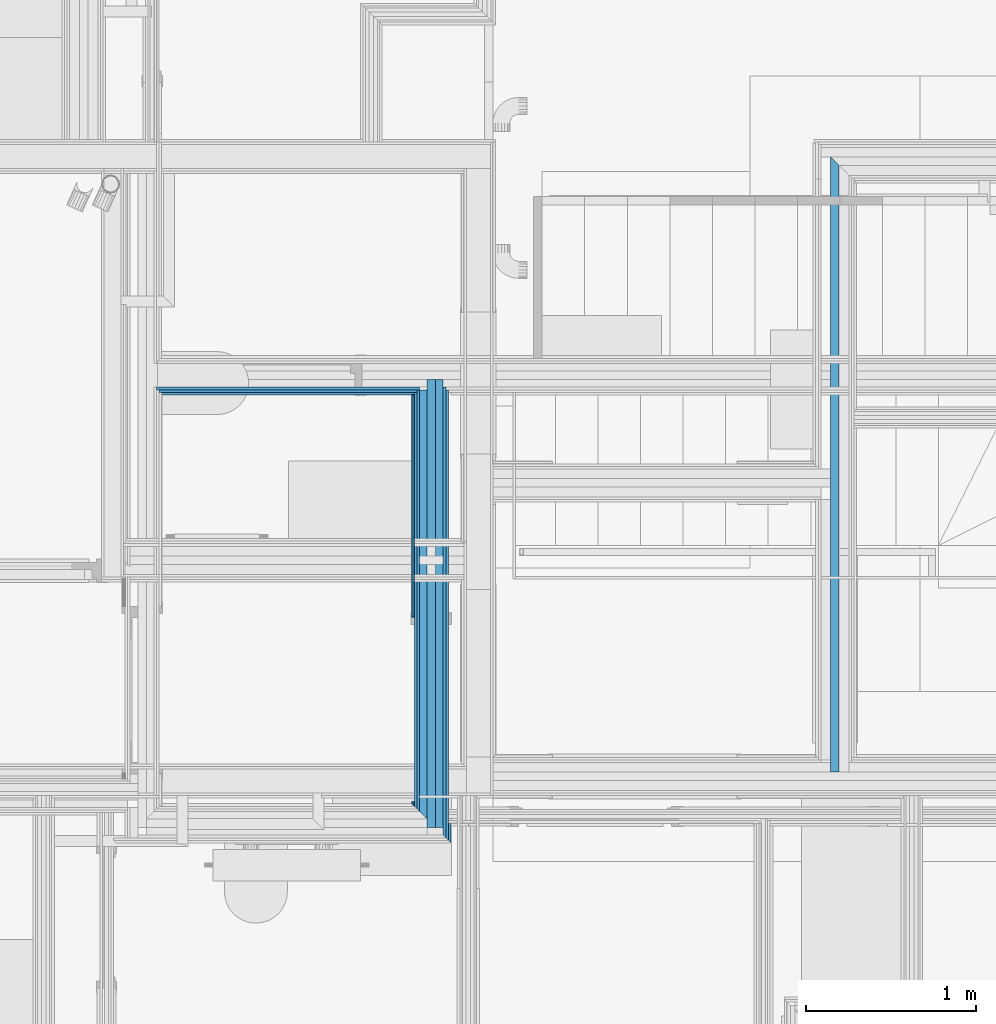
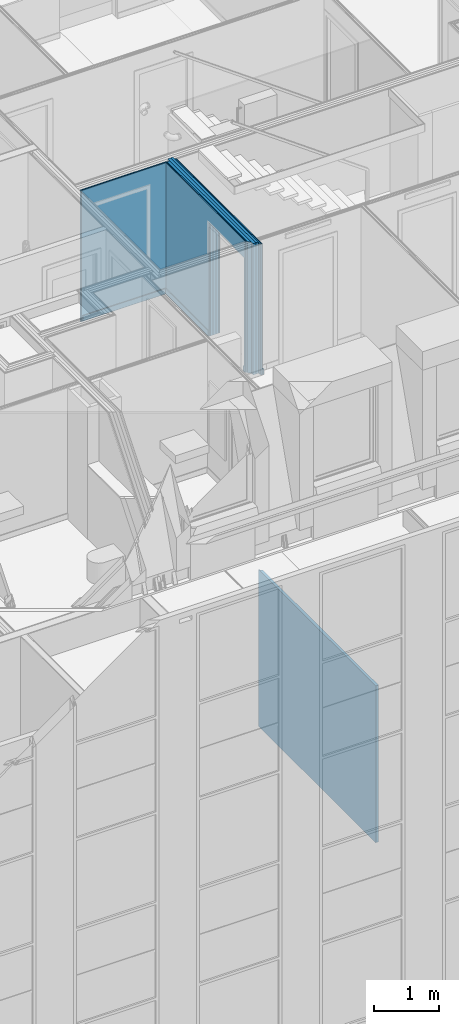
# One storey, part 38 of 169: 13 building element parts, 1 opening, 3 elements without a shape of their own.
"""IFC2X3 building model written with IfcOpenShell, lengths in metres."""

from ifc_helpers import new_model, entity, si_unit, converted_unit, derived_unit, money_unit, direction, frame, frame_2d, origin_with_axes, place, context, subcontext, project, spatial, polyline, rectangle, outline, extrude, material, type_object, element, aggregate, save


model = new_model("IFC2X3")

# Units and contexts
model_context = context("Model", 3, precision=1e-05, world=origin_with_axes(), true_north=direction((0.0, 1.0)))
body_context = subcontext(model_context, "Body", "Model", "MODEL_VIEW", scale=1.0)
ifc_project = project(units=[si_unit("LENGTHUNIT", "METRE"), si_unit("AREAUNIT", "SQUARE_METRE"), si_unit("VOLUMEUNIT", "CUBIC_METRE"), si_unit("ABSORBEDDOSEUNIT", "GRAY"), si_unit("AMOUNTOFSUBSTANCEUNIT", "MOLE"), si_unit("DOSEEQUIVALENTUNIT", "SIEVERT"), si_unit("ELECTRICCAPACITANCEUNIT", "FARAD"), si_unit("ELECTRICCHARGEUNIT", "COULOMB"), si_unit("ELECTRICCONDUCTANCEUNIT", "SIEMENS"), si_unit("ELECTRICCURRENTUNIT", "AMPERE"), si_unit("ELECTRICRESISTANCEUNIT", "OHM"), si_unit("ELECTRICVOLTAGEUNIT", "VOLT"), si_unit("ENERGYUNIT", "JOULE"), si_unit("FORCEUNIT", "NEWTON"), si_unit("FREQUENCYUNIT", "HERTZ"), si_unit("ILLUMINANCEUNIT", "LUX"), si_unit("INDUCTANCEUNIT", "HENRY"), si_unit("LUMINOUSFLUXUNIT", "LUMEN"), si_unit("LUMINOUSINTENSITYUNIT", "CANDELA"), si_unit("MAGNETICFLUXDENSITYUNIT", "TESLA"), si_unit("MAGNETICFLUXUNIT", "WEBER"), si_unit("MASSUNIT", "GRAM"), converted_unit("PLANEANGLEUNIT", "degree", entity("IfcReal", 0.0174532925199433), si_unit("PLANEANGLEUNIT", "RADIAN"), dimensions=[0, 0, 0, 0, 0, 0, 0]), si_unit("POWERUNIT", "WATT"), si_unit("PRESSUREUNIT", "PASCAL"), si_unit("RADIOACTIVITYUNIT", "BECQUEREL"), si_unit("SOLIDANGLEUNIT", "STERADIAN"), si_unit("THERMODYNAMICTEMPERATUREUNIT", "KELVIN"), si_unit("TIMEUNIT", "SECOND"), derived_unit("ACCELERATIONUNIT", [(si_unit("LENGTHUNIT", "METRE"), 1), (si_unit("TIMEUNIT", "SECOND"), -2)]), derived_unit("ANGULARVELOCITYUNIT", [(converted_unit("PLANEANGLEUNIT", "degree", entity("IfcReal", 0.0174532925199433), si_unit("PLANEANGLEUNIT", "RADIAN"), dimensions=[0, 0, 0, 0, 0, 0, 0]), 1), (si_unit("TIMEUNIT", "SECOND"), -1)]), derived_unit("CURVATUREUNIT", [(converted_unit("PLANEANGLEUNIT", "degree", entity("IfcReal", 0.0174532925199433), si_unit("PLANEANGLEUNIT", "RADIAN"), dimensions=[0, 0, 0, 0, 0, 0, 0]), 1), (si_unit("LENGTHUNIT", "METRE"), -1)]), derived_unit("DYNAMICVISCOSITYUNIT", [(si_unit("PRESSUREUNIT", "PASCAL"), 1), (si_unit("TIMEUNIT", "SECOND"), 1)]), derived_unit("HEATFLUXDENSITYUNIT", [(si_unit("POWERUNIT", "WATT"), 1), (si_unit("LENGTHUNIT", "METRE"), -2)]), derived_unit("HEATINGVALUEUNIT", [(si_unit("ENERGYUNIT", "JOULE"), 1), (si_unit("MASSUNIT", "GRAM"), -1)]), derived_unit("INTEGERCOUNTRATEUNIT", [(si_unit("TIMEUNIT", "SECOND"), -1)]), derived_unit("IONCONCENTRATIONUNIT", [(si_unit("MASSUNIT", "GRAM"), 1), (si_unit("VOLUMEUNIT", "CUBIC_METRE"), -1)]), derived_unit("ISOTHERMALMOISTURECAPACITYUNIT", [(si_unit("VOLUMEUNIT", "CUBIC_METRE"), 1), (si_unit("MASSUNIT", "GRAM"), -1)]), derived_unit("KINEMATICVISCOSITYUNIT", [(si_unit("AREAUNIT", "SQUARE_METRE"), 1), (si_unit("TIMEUNIT", "SECOND"), -1)]), derived_unit("LINEARFORCEUNIT", [(si_unit("FORCEUNIT", "NEWTON"), 1), (si_unit("LENGTHUNIT", "METRE"), -1)]), derived_unit("LINEARMOMENTUNIT", [(si_unit("FORCEUNIT", "NEWTON"), 1), (si_unit("LENGTHUNIT", "METRE"), -1)]), derived_unit("LINEARSTIFFNESSUNIT", [(si_unit("FORCEUNIT", "NEWTON"), 1), (si_unit("LENGTHUNIT", "METRE"), -1)]), derived_unit("LINEARVELOCITYUNIT", [(si_unit("LENGTHUNIT", "METRE"), 1), (si_unit("TIMEUNIT", "SECOND"), -1)]), derived_unit("LUMINOUSINTENSITYDISTRIBUTIONUNIT", [(si_unit("LUMINOUSINTENSITYUNIT", "CANDELA"), 1), (si_unit("LUMINOUSFLUXUNIT", "LUMEN"), -1)]), derived_unit("MASSDENSITYUNIT", [(si_unit("MASSUNIT", "GRAM"), 1), (si_unit("VOLUMEUNIT", "CUBIC_METRE"), -1)]), derived_unit("MASSFLOWRATEUNIT", [(si_unit("MASSUNIT", "GRAM"), 1), (si_unit("TIMEUNIT", "SECOND"), -1)]), derived_unit("MASSPERLENGTHUNIT", [(si_unit("MASSUNIT", "GRAM"), 1), (si_unit("LENGTHUNIT", "METRE"), -1)]), derived_unit("MODULUSOFELASTICITYUNIT", [(si_unit("FORCEUNIT", "NEWTON"), 1), (si_unit("AREAUNIT", "SQUARE_METRE"), -1)]), derived_unit("MODULUSOFLINEARSUBGRADEREACTIONUNIT", [(si_unit("FORCEUNIT", "NEWTON"), 1), (si_unit("LENGTHUNIT", "METRE"), -2)]), derived_unit("MODULUSOFROTATIONALSUBGRADEREACTIONUNIT", [(si_unit("FORCEUNIT", "NEWTON"), 1), (si_unit("LENGTHUNIT", "METRE"), 1)]), derived_unit("MODULUSOFSUBGRADEREACTIONUNIT", [(si_unit("FORCEUNIT", "NEWTON"), 1), (si_unit("VOLUMEUNIT", "CUBIC_METRE"), -1)]), derived_unit("MOISTUREDIFFUSIVITYUNIT", [(si_unit("VOLUMEUNIT", "CUBIC_METRE"), 1), (si_unit("TIMEUNIT", "SECOND"), -1)]), derived_unit("MOLECULARWEIGHTUNIT", [(si_unit("MASSUNIT", "GRAM"), 1), (si_unit("AMOUNTOFSUBSTANCEUNIT", "MOLE"), -1)]), derived_unit("PLANARFORCEUNIT", [(si_unit("FORCEUNIT", "NEWTON"), 1), (si_unit("LENGTHUNIT", "METRE"), -2)]), derived_unit("ROTATIONALFREQUENCYUNIT", [(si_unit("TIMEUNIT", "SECOND"), -1)]), derived_unit("ROTATIONALMASSUNIT", [(si_unit("MASSUNIT", "GRAM"), 1), (si_unit("LENGTHUNIT", "METRE"), 2)]), derived_unit("ROTATIONALSTIFFNESSUNIT", [(si_unit("FORCEUNIT", "NEWTON"), 1), (si_unit("LENGTHUNIT", "METRE"), 1), (converted_unit("PLANEANGLEUNIT", "degree", entity("IfcReal", 0.0174532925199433), si_unit("PLANEANGLEUNIT", "RADIAN"), dimensions=[0, 0, 0, 0, 0, 0, 0]), -1)]), derived_unit("SECTIONAREAINTEGRALUNIT", [(si_unit("LENGTHUNIT", "METRE"), 5)]), derived_unit("SECTIONMODULUSUNIT", [(si_unit("LENGTHUNIT", "METRE"), 3)]), derived_unit("SHEARMODULUSUNIT", [(si_unit("FORCEUNIT", "NEWTON"), 1), (si_unit("AREAUNIT", "SQUARE_METRE"), -1)]), derived_unit("SOUNDPOWERUNIT", [(si_unit("ENERGYUNIT", "JOULE"), 1), (si_unit("TIMEUNIT", "SECOND"), -1)]), derived_unit("SPECIFICHEATCAPACITYUNIT", [(si_unit("FORCEUNIT", "NEWTON"), 1), (si_unit("MASSUNIT", "GRAM"), -1), (si_unit("THERMODYNAMICTEMPERATUREUNIT", "KELVIN"), -1)]), derived_unit("TEMPERATUREGRADIENTUNIT", [(si_unit("THERMODYNAMICTEMPERATUREUNIT", "KELVIN"), 1), (si_unit("LENGTHUNIT", "METRE"), -1)]), derived_unit("THERMALADMITTANCEUNIT", [(si_unit("POWERUNIT", "WATT"), 1), (si_unit("AREAUNIT", "SQUARE_METRE"), -1), (si_unit("THERMODYNAMICTEMPERATUREUNIT", "KELVIN"), -1)]), derived_unit("THERMALCONDUCTANCEUNIT", [(si_unit("POWERUNIT", "WATT"), 1), (si_unit("LENGTHUNIT", "METRE"), -1), (si_unit("THERMODYNAMICTEMPERATUREUNIT", "KELVIN"), -1)]), derived_unit("THERMALEXPANSIONCOEFFICIENTUNIT", [(si_unit("THERMODYNAMICTEMPERATUREUNIT", "KELVIN"), -1)]), derived_unit("THERMALRESISTANCEUNIT", [(si_unit("AREAUNIT", "SQUARE_METRE"), 1), (si_unit("POWERUNIT", "WATT"), -1)]), derived_unit("THERMALTRANSMITTANCEUNIT", [(si_unit("POWERUNIT", "WATT"), 1), (si_unit("AREAUNIT", "SQUARE_METRE"), -1), (si_unit("THERMODYNAMICTEMPERATUREUNIT", "KELVIN"), -1)]), derived_unit("TORQUEUNIT", [(si_unit("FORCEUNIT", "NEWTON"), 1), (si_unit("LENGTHUNIT", "METRE"), 1)]), derived_unit("VAPORPERMEABILITYUNIT", [(si_unit("MASSUNIT", "GRAM"), 1), (si_unit("TIMEUNIT", "SECOND"), -1)]), derived_unit("VOLUMETRICFLOWRATEUNIT", [(si_unit("VOLUMEUNIT", "CUBIC_METRE"), 1), (si_unit("TIMEUNIT", "SECOND"), -1)]), derived_unit("WARPINGCONSTANTUNIT", [(si_unit("LENGTHUNIT", "METRE"), 6)]), derived_unit("WARPINGMOMENTUNIT", [(si_unit("FORCEUNIT", "NEWTON"), 1), (si_unit("LENGTHUNIT", "METRE"), 2)]), money_unit("GBP")], contexts=[model_context])

# Site, building, storey
site_placement = place(None, origin_with_axes())
site = spatial("IfcSite", under=ifc_project, at=site_placement, Name="Site", CompositionType="ELEMENT")
building_placement = place(site_placement, origin_with_axes())
building = spatial("IfcBuilding", under=site, at=building_placement, Name="Building01", CompositionType="ELEMENT")
storey_placement = place(building_placement, frame((0.0, 0.0, 5.15), z_axis=(0.0, 0.0, 1.0), x_axis=(1.0, 0.0, 0.0)))
storey = spatial("IfcBuildingStorey", under=building, at=storey_placement, Name="1F", CompositionType="ELEMENT", Elevation=5.15)

# Wall, building element part
wall_type_1 = type_object("IfcWallType", Name="SHE_A-Walls_Type01c_Partywall_225mm_twin_tall", PredefinedType="NOTDEFINED")
wall_1_placement = place(storey_placement, frame((19.985661, 8.732, 0.0), z_axis=(0.0, 0.0, 1.0), x_axis=(0.0, -1.0, 0.0)))
wall_1 = element("IfcWall", 1, at=wall_1_placement, inside=storey, type_object=wall_type_1, Name="1C", ObjectType="SHE_A-Walls_Type01c_Partywall_225mm_twin_tall")
ifc_material_1 = material(Name="A_BSUK_Insulation")
building_element_part_1_placement = place(wall_1_placement, origin_with_axes())
building_element_part_1 = element("IfcBuildingElementPart", 2, at=building_element_part_1_placement, material=ifc_material_1, Name="10", context=body_context, shape_type="SweptSolid", body=[
    extrude(outline(polyline([(3.614, 0.05), (0.05, 0.05), (0.0, 0.0), (3.614, 0.0), (3.614, 0.05)])), origin_with_axes(), (0.0, 0.0, 1.0), 2.95),
])
aggregate(wall_1, [building_element_part_1])

# Wall, opening, building element parts
wall_type_2 = type_object("IfcWallType", Name="SHE_A-Walls_Type01d_Partywall_200mm_twin", PredefinedType="NOTDEFINED")
wall_2_placement = place(storey_placement, frame((17.61344, 7.424915, 9.83), z_axis=(0.0, 0.0, 1.0), x_axis=(0.0, -1.0, 0.0)))
wall_2 = element("IfcWall", 3, at=wall_2_placement, inside=storey, type_object=wall_type_2, Name="1D", ObjectType="SHE_A-Walls_Type01d_Partywall_200mm_twin")
opening_placement = place(wall_2_placement, frame((1.396915, -0.09, 0.0), z_axis=(0.0, 0.0, 1.0), x_axis=(1.0, 0.0, 0.0)))
element("IfcOpeningElement", 4, at=opening_placement, cuts=wall_2, Name="Opening", ObjectType="Recess", context=body_context, shape_type="SweptSolid", body=[
    extrude(rectangle(XDim=1.084, YDim=2.142, at=frame_2d((-0.542, 1.071), x_axis=(1.0, 0.0))), frame((0.0, 0.0, 0.0), z_axis=(0.0, 1.0, 0.0), x_axis=(-1.0, 0.0, 0.0)), (0.0, 0.0, 1.0), 0.215),
])
ifc_material_2 = material(Name="A_BSUK_Walls_Timber")
placement_1 = place(wall_2_placement, origin_with_axes())
building_element_part_2 = element("IfcBuildingElementPart", 5, at=placement_1, material=ifc_material_2, Name="1", context=body_context, shape_type="SweptSolid", body=[
    extrude(outline(polyline([(2.507915, -0.075), (0.09, -0.075), (0.09, -0.09), (2.492915, -0.09), (2.507915, -0.075)])), frame((0.0, 0.0, 0.015), z_axis=(0.0, 0.0, 1.0), x_axis=(1.0, 0.0, 0.0)), (0.0, 0.0, 1.0), 0.1),
])
ifc_material_3 = material(Name="A_BSUK_WallInternal_Finishes_Plasterboard")
building_element_part_3 = element("IfcBuildingElementPart", 6, at=placement_1, material=ifc_material_3, Name="2", context=body_context, shape_type="SweptSolid", body=[
    extrude(outline(polyline([(2.522915, -0.06), (0.075, -0.06), (0.075, -0.075), (2.507915, -0.075), (2.522915, -0.06)])), origin_with_axes(), (0.0, 0.0, 1.0), 2.468),
])
building_element_part_4 = element("IfcBuildingElementPart", 7, at=placement_1, material=ifc_material_3, Name="3", context=body_context, shape_type="SweptSolid", body=[
    extrude(outline(polyline([(2.537915, -0.045), (0.06, -0.045), (0.06, -0.06), (2.522915, -0.06), (2.537915, -0.045)])), origin_with_axes(), (0.0, 0.0, 1.0), 2.468),
])
ifc_material_4 = material(Name="Air Cavity")
building_element_part_5 = element("IfcBuildingElementPart", 8, at=placement_1, material=ifc_material_4, Name="4", context=body_context, shape_type="SweptSolid", body=[
    extrude(outline(polyline([(2.582915, 0.0), (0.06, 0.0), (0.06, -0.045), (2.537915, -0.045), (2.582915, 0.0)])), origin_with_axes(), (0.0, 0.0, 1.0), 2.468),
])
building_element_part_6 = element("IfcBuildingElementPart", 9, at=placement_1, material=ifc_material_1, Name="5", context=body_context, shape_type="SweptSolid", body=[
    extrude(rectangle(XDim=2.632915, YDim=0.05, at=frame_2d((1.316458, 0.025), x_axis=(-1.0, 0.0))), origin_with_axes(), (0.0, 0.0, 1.0), 2.468),
])
building_element_part_7 = element("IfcBuildingElementPart", 10, at=placement_1, material=ifc_material_4, Name="6", context=body_context, shape_type="SweptSolid", body=[
    extrude(rectangle(XDim=2.632915, YDim=0.045, at=frame_2d((1.316458, 0.0725), x_axis=(-1.0, 0.0))), origin_with_axes(), (0.0, 0.0, 1.0), 2.468),
])
building_element_part_8 = element("IfcBuildingElementPart", 11, at=placement_1, material=ifc_material_3, Name="7", context=body_context, shape_type="SweptSolid", body=[
    extrude(outline(polyline([(2.692915, 0.11), (0.045, 0.11), (0.045, 0.095), (2.677915, 0.095), (2.692915, 0.11)])), origin_with_axes(), (0.0, 0.0, 1.0), 2.468),
])
building_element_part_9 = element("IfcBuildingElementPart", 12, at=placement_1, material=ifc_material_3, Name="8", context=body_context, shape_type="SweptSolid", body=[
    extrude(outline(polyline([(2.707915, 0.125), (0.06, 0.125), (0.06, 0.11), (2.692915, 0.11), (2.707915, 0.125)])), origin_with_axes(), (0.0, 0.0, 1.0), 2.468),
])
building_element_part_10 = element("IfcBuildingElementPart", 13, at=placement_1, material=ifc_material_2, Name="9", context=body_context, shape_type="SweptSolid", body=[
    extrude(outline(polyline([(2.722915, 0.14), (2.607915, 0.14), (2.607915, 0.125), (2.707915, 0.125), (2.722915, 0.14)])), frame((0.0, 0.0, 0.015), z_axis=(0.0, 0.0, 1.0), x_axis=(1.0, 0.0, 0.0)), (0.0, 0.0, 1.0), 0.1),
])
aggregate(wall_2, [building_element_part_2, building_element_part_3, building_element_part_4, building_element_part_5, building_element_part_6, building_element_part_7, building_element_part_8, building_element_part_9, building_element_part_10])

# Wall, building element parts
wall_3_placement = place(storey_placement, frame((26.380061, 7.474915, 9.83), z_axis=(0.0, 0.0, 1.0), x_axis=(-1.0, 0.0, 0.0)))
wall_3 = element("IfcWall", 14, at=wall_3_placement, inside=storey, type_object=wall_type_2, Name="1D", ObjectType="SHE_A-Walls_Type01d_Partywall_200mm_twin")
placement_2 = place(wall_3_placement, origin_with_axes())
building_element_part_11 = element("IfcBuildingElementPart", 15, at=placement_2, material=ifc_material_3, Name="11", context=body_context, shape_type="SweptSolid", body=[
    extrude(rectangle(XDim=1.545, YDim=0.015, at=frame_2d((9.584121, 0.1025), x_axis=(-1.0, 0.0))), origin_with_axes(), (0.0, 0.0, 1.0), 2.468),
])
building_element_part_12 = element("IfcBuildingElementPart", 16, at=placement_2, material=ifc_material_3, Name="13", context=body_context, shape_type="SweptSolid", body=[
    extrude(rectangle(XDim=1.515, YDim=0.015, at=frame_2d((9.584121, 0.1175), x_axis=(-1.0, 0.0))), origin_with_axes(), (0.0, 0.0, 1.0), 2.468),
])
building_element_part_13 = element("IfcBuildingElementPart", 17, at=placement_2, material=ifc_material_2, Name="15", context=body_context, shape_type="SweptSolid", body=[
    extrude(outline(polyline([(10.326621, 0.14), (8.841621, 0.14), (8.841621, 0.125), (10.341621, 0.125), (10.326621, 0.14)])), frame((0.0, 0.0, 0.015), z_axis=(0.0, 0.0, 1.0), x_axis=(1.0, 0.0, 0.0)), (0.0, 0.0, 1.0), 0.1),
])
aggregate(wall_3, [building_element_part_11, building_element_part_12, building_element_part_13])

save(model, "model.ifc")
